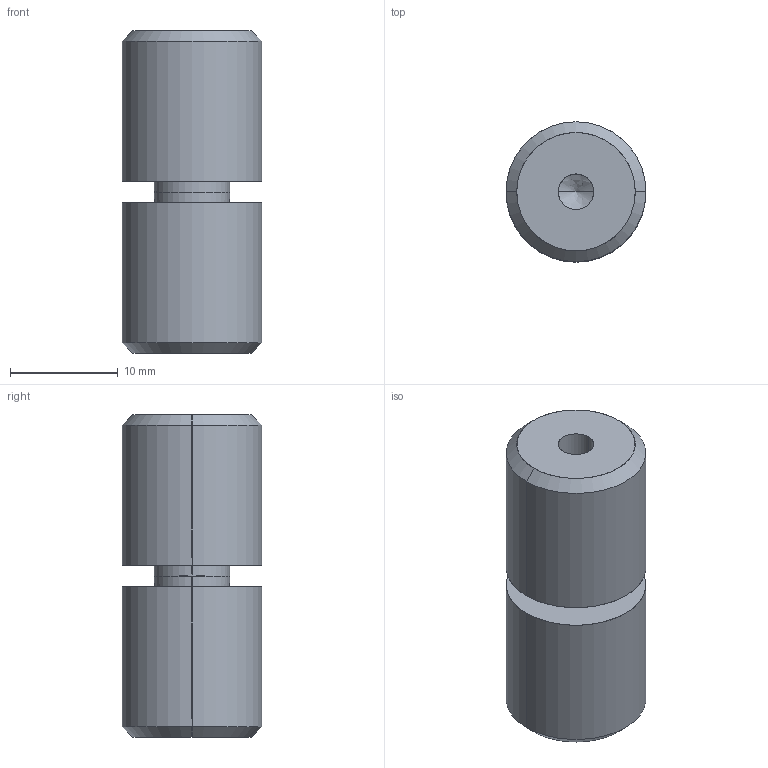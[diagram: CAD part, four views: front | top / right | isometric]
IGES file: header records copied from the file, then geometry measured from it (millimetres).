
Start section: SolidWorks IGES file using analytic representation for surfaces
Global section: file name: D:\Current\W1\Misumi_TPN\Misumi_TPN13-1\TPN13-1-1.IGS; native system: SolidWorks 2017; preprocessor: SolidWorks 2017; author: Ravi Kalvai; date: 240524.165558; units: millimetre
Bounding box: 13 x 13 x 30 mm (x, y, z)
Surface area: 2075.5 mm2 (no closed solid volume)
Topology: 0 solids, 0 shells, 32 faces, 456 edges, 454 vertices
Faces by surface type: revolution 24, bspline 8
